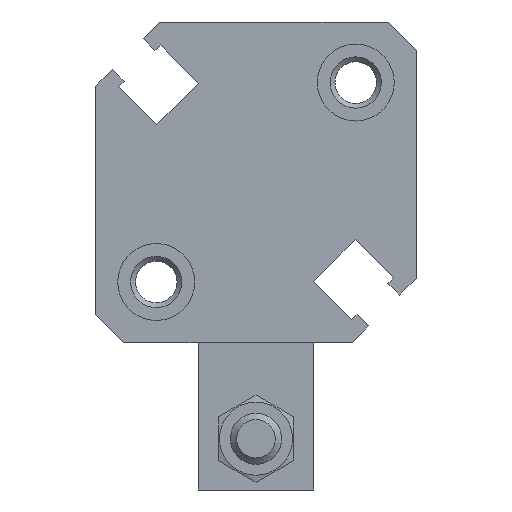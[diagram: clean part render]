
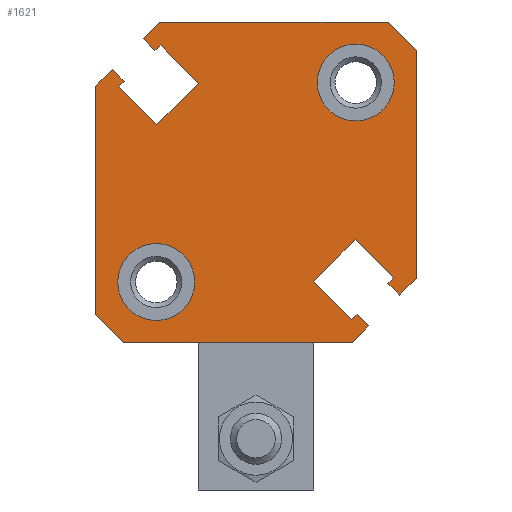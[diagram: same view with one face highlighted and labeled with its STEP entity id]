
A CAD part, front view. The second image highlights one B-rep face of the part: STEP entity #1621.
In plain terms, the highlighted planar face has unit normal (0, -1, 0).
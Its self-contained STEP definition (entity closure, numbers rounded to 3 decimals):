
#98=CIRCLE('',#1795,3.);
#99=CIRCLE('',#1796,3.);
#293=ORIENTED_EDGE('',*,*,#643,.F.);
#294=ORIENTED_EDGE('',*,*,#644,.F.);
#295=ORIENTED_EDGE('',*,*,#565,.F.);
#296=ORIENTED_EDGE('',*,*,#638,.F.);
#297=ORIENTED_EDGE('',*,*,#635,.F.);
#298=ORIENTED_EDGE('',*,*,#632,.F.);
#299=ORIENTED_EDGE('',*,*,#629,.F.);
#300=ORIENTED_EDGE('',*,*,#626,.F.);
#301=ORIENTED_EDGE('',*,*,#623,.F.);
#302=ORIENTED_EDGE('',*,*,#620,.F.);
#303=ORIENTED_EDGE('',*,*,#617,.F.);
#304=ORIENTED_EDGE('',*,*,#614,.F.);
#305=ORIENTED_EDGE('',*,*,#611,.F.);
#306=ORIENTED_EDGE('',*,*,#608,.F.);
#307=ORIENTED_EDGE('',*,*,#605,.F.);
#308=ORIENTED_EDGE('',*,*,#602,.F.);
#309=ORIENTED_EDGE('',*,*,#596,.F.);
#310=ORIENTED_EDGE('',*,*,#593,.F.);
#311=ORIENTED_EDGE('',*,*,#590,.F.);
#312=ORIENTED_EDGE('',*,*,#587,.F.);
#313=ORIENTED_EDGE('',*,*,#584,.F.);
#314=ORIENTED_EDGE('',*,*,#581,.F.);
#315=ORIENTED_EDGE('',*,*,#578,.F.);
#316=ORIENTED_EDGE('',*,*,#575,.F.);
#317=ORIENTED_EDGE('',*,*,#572,.F.);
#318=ORIENTED_EDGE('',*,*,#569,.F.);
#565=EDGE_CURVE('',#764,#765,#922,.T.);
#569=EDGE_CURVE('',#765,#768,#926,.T.);
#572=EDGE_CURVE('',#768,#770,#929,.T.);
#575=EDGE_CURVE('',#770,#772,#932,.T.);
#578=EDGE_CURVE('',#772,#774,#935,.T.);
#581=EDGE_CURVE('',#774,#776,#938,.T.);
#584=EDGE_CURVE('',#776,#778,#941,.T.);
#587=EDGE_CURVE('',#778,#780,#944,.T.);
#590=EDGE_CURVE('',#780,#782,#947,.T.);
#593=EDGE_CURVE('',#782,#784,#950,.T.);
#596=EDGE_CURVE('',#784,#786,#953,.T.);
#602=EDGE_CURVE('',#786,#791,#956,.T.);
#605=EDGE_CURVE('',#791,#793,#959,.T.);
#608=EDGE_CURVE('',#793,#795,#962,.T.);
#611=EDGE_CURVE('',#795,#797,#965,.T.);
#614=EDGE_CURVE('',#797,#799,#968,.T.);
#617=EDGE_CURVE('',#799,#801,#971,.T.);
#620=EDGE_CURVE('',#801,#803,#974,.T.);
#623=EDGE_CURVE('',#803,#805,#977,.T.);
#626=EDGE_CURVE('',#805,#807,#980,.T.);
#629=EDGE_CURVE('',#807,#809,#983,.T.);
#632=EDGE_CURVE('',#809,#811,#986,.T.);
#635=EDGE_CURVE('',#811,#813,#989,.T.);
#638=EDGE_CURVE('',#813,#764,#992,.T.);
#643=EDGE_CURVE('',#818,#818,#98,.T.);
#644=EDGE_CURVE('',#819,#819,#99,.T.);
#764=VERTEX_POINT('',#2468);
#765=VERTEX_POINT('',#2469);
#768=VERTEX_POINT('',#2477);
#770=VERTEX_POINT('',#2483);
#772=VERTEX_POINT('',#2489);
#774=VERTEX_POINT('',#2495);
#776=VERTEX_POINT('',#2501);
#778=VERTEX_POINT('',#2507);
#780=VERTEX_POINT('',#2513);
#782=VERTEX_POINT('',#2519);
#784=VERTEX_POINT('',#2525);
#786=VERTEX_POINT('',#2531);
#791=VERTEX_POINT('',#2543);
#793=VERTEX_POINT('',#2549);
#795=VERTEX_POINT('',#2555);
#797=VERTEX_POINT('',#2561);
#799=VERTEX_POINT('',#2567);
#801=VERTEX_POINT('',#2573);
#803=VERTEX_POINT('',#2579);
#805=VERTEX_POINT('',#2585);
#807=VERTEX_POINT('',#2591);
#809=VERTEX_POINT('',#2597);
#811=VERTEX_POINT('',#2603);
#813=VERTEX_POINT('',#2609);
#818=VERTEX_POINT('',#2625);
#819=VERTEX_POINT('',#2627);
#922=LINE('',#2467,#1021);
#926=LINE('',#2476,#1025);
#929=LINE('',#2482,#1028);
#932=LINE('',#2488,#1031);
#935=LINE('',#2494,#1034);
#938=LINE('',#2500,#1037);
#941=LINE('',#2506,#1040);
#944=LINE('',#2512,#1043);
#947=LINE('',#2518,#1046);
#950=LINE('',#2524,#1049);
#953=LINE('',#2530,#1052);
#956=LINE('',#2542,#1055);
#959=LINE('',#2548,#1058);
#962=LINE('',#2554,#1061);
#965=LINE('',#2560,#1064);
#968=LINE('',#2566,#1067);
#971=LINE('',#2572,#1070);
#974=LINE('',#2578,#1073);
#977=LINE('',#2584,#1076);
#980=LINE('',#2590,#1079);
#983=LINE('',#2596,#1082);
#986=LINE('',#2602,#1085);
#989=LINE('',#2608,#1088);
#992=LINE('',#2614,#1091);
#1021=VECTOR('',#1968,1000.);
#1025=VECTOR('',#1974,1000.);
#1028=VECTOR('',#1979,1000.);
#1031=VECTOR('',#1984,1000.);
#1034=VECTOR('',#1989,1000.);
#1037=VECTOR('',#1994,1000.);
#1040=VECTOR('',#1999,1000.);
#1043=VECTOR('',#2004,1000.);
#1046=VECTOR('',#2009,1000.);
#1049=VECTOR('',#2014,1000.);
#1052=VECTOR('',#2019,1000.);
#1055=VECTOR('',#2030,1000.);
#1058=VECTOR('',#2035,1000.);
#1061=VECTOR('',#2040,1000.);
#1064=VECTOR('',#2045,1000.);
#1067=VECTOR('',#2050,1000.);
#1070=VECTOR('',#2055,1000.);
#1073=VECTOR('',#2060,1000.);
#1076=VECTOR('',#2065,1000.);
#1079=VECTOR('',#2070,1000.);
#1082=VECTOR('',#2075,1000.);
#1085=VECTOR('',#2080,1000.);
#1088=VECTOR('',#2085,1000.);
#1091=VECTOR('',#2090,1000.);
#1151=EDGE_LOOP('',(#293));
#1152=EDGE_LOOP('',(#294));
#1153=EDGE_LOOP('',(#295,#296,#297,#298,#299,#300,#301,#302,#303,#304,#305,
#306,#307,#308,#309,#310,#311,#312,#313,#314,#315,#316,#317,#318));
#1352=FACE_BOUND('',#1151,.T.);
#1353=FACE_BOUND('',#1152,.T.);
#1354=FACE_BOUND('',#1153,.T.);
#1547=PLANE('',#1794);
#1621=ADVANCED_FACE('',(#1352,#1353,#1354),#1547,.F.);
#1794=AXIS2_PLACEMENT_3D('',#2623,#2100,#2101);
#1795=AXIS2_PLACEMENT_3D('',#2624,#2102,#2103);
#1796=AXIS2_PLACEMENT_3D('',#2626,#2104,#2105);
#1968=DIRECTION('',(-0.707,0.,0.707));
#1974=DIRECTION('',(0.,0.,1.));
#1979=DIRECTION('',(0.707,0.,0.707));
#1984=DIRECTION('',(0.707,0.,-0.707));
#1989=DIRECTION('',(-0.707,0.,-0.707));
#1994=DIRECTION('',(0.707,0.,-0.707));
#1999=DIRECTION('',(0.707,0.,0.707));
#2004=DIRECTION('',(-0.707,0.,0.707));
#2009=DIRECTION('',(-0.707,0.,-0.707));
#2014=DIRECTION('',(-0.707,0.,0.707));
#2019=DIRECTION('',(0.707,0.,0.707));
#2030=DIRECTION('',(1.,0.,0.));
#2035=DIRECTION('',(0.707,0.,-0.707));
#2040=DIRECTION('',(0.,0.,-1.));
#2045=DIRECTION('',(-0.707,0.,-0.707));
#2050=DIRECTION('',(-0.707,0.,0.707));
#2055=DIRECTION('',(0.707,0.,0.707));
#2060=DIRECTION('',(-0.707,0.,0.707));
#2065=DIRECTION('',(-0.707,0.,-0.707));
#2070=DIRECTION('',(0.707,0.,-0.707));
#2075=DIRECTION('',(0.707,0.,0.707));
#2080=DIRECTION('',(0.707,0.,-0.707));
#2085=DIRECTION('',(-0.707,0.,-0.707));
#2090=DIRECTION('',(-1.,0.,0.));
#2100=DIRECTION('',(0.,1.,0.));
#2101=DIRECTION('',(0.,0.,1.));
#2102=DIRECTION('',(0.,-1.,0.));
#2103=DIRECTION('',(0.,0.,-1.));
#2104=DIRECTION('',(0.,-1.,0.));
#2105=DIRECTION('',(0.,0.,-1.));
#2467=CARTESIAN_POINT('',(-10.3,0.,-12.5));
#2468=CARTESIAN_POINT('',(-10.3,0.,-12.5));
#2469=CARTESIAN_POINT('',(-12.5,0.,-10.3));
#2476=CARTESIAN_POINT('',(-12.5,0.,-10.3));
#2477=CARTESIAN_POINT('',(-12.5,0.,7.5));
#2482=CARTESIAN_POINT('',(-12.5,0.,7.5));
#2483=CARTESIAN_POINT('',(-11.202,0.,8.798));
#2488=CARTESIAN_POINT('',(-11.202,0.,8.798));
#2489=CARTESIAN_POINT('',(-10.283,0.,7.879));
#2494=CARTESIAN_POINT('',(-10.283,0.,7.879));
#2495=CARTESIAN_POINT('',(-10.707,0.,7.454));
#2500=CARTESIAN_POINT('',(-10.707,0.,7.454));
#2501=CARTESIAN_POINT('',(-7.737,0.,4.485));
#2506=CARTESIAN_POINT('',(-7.737,0.,4.485));
#2507=CARTESIAN_POINT('',(-4.485,0.,7.737));
#2512=CARTESIAN_POINT('',(-4.485,0.,7.737));
#2513=CARTESIAN_POINT('',(-7.454,0.,10.707));
#2518=CARTESIAN_POINT('',(-7.454,0.,10.707));
#2519=CARTESIAN_POINT('',(-7.879,0.,10.283));
#2524=CARTESIAN_POINT('',(-7.879,0.,10.283));
#2525=CARTESIAN_POINT('',(-8.798,0.,11.202));
#2530=CARTESIAN_POINT('',(-8.798,0.,11.202));
#2531=CARTESIAN_POINT('',(-7.5,0.,12.5));
#2542=CARTESIAN_POINT('',(-7.5,0.,12.5));
#2543=CARTESIAN_POINT('',(10.3,0.,12.5));
#2548=CARTESIAN_POINT('',(10.3,0.,12.5));
#2549=CARTESIAN_POINT('',(12.5,0.,10.3));
#2554=CARTESIAN_POINT('',(12.5,0.,10.3));
#2555=CARTESIAN_POINT('',(12.5,0.,-7.5));
#2560=CARTESIAN_POINT('',(12.5,0.,-7.5));
#2561=CARTESIAN_POINT('',(11.202,0.,-8.798));
#2566=CARTESIAN_POINT('',(11.202,0.,-8.798));
#2567=CARTESIAN_POINT('',(10.283,0.,-7.879));
#2572=CARTESIAN_POINT('',(10.283,0.,-7.879));
#2573=CARTESIAN_POINT('',(10.707,0.,-7.454));
#2578=CARTESIAN_POINT('',(10.707,0.,-7.454));
#2579=CARTESIAN_POINT('',(7.737,0.,-4.485));
#2584=CARTESIAN_POINT('',(7.737,0.,-4.485));
#2585=CARTESIAN_POINT('',(4.485,0.,-7.737));
#2590=CARTESIAN_POINT('',(4.485,0.,-7.737));
#2591=CARTESIAN_POINT('',(7.454,0.,-10.707));
#2596=CARTESIAN_POINT('',(7.454,0.,-10.707));
#2597=CARTESIAN_POINT('',(7.879,0.,-10.283));
#2602=CARTESIAN_POINT('',(7.879,0.,-10.283));
#2603=CARTESIAN_POINT('',(8.798,0.,-11.202));
#2608=CARTESIAN_POINT('',(8.798,0.,-11.202));
#2609=CARTESIAN_POINT('',(7.5,0.,-12.5));
#2614=CARTESIAN_POINT('',(7.5,0.,-12.5));
#2623=CARTESIAN_POINT('',(0.,0.,0.));
#2624=CARTESIAN_POINT('',(-7.778,0.,-7.778));
#2625=CARTESIAN_POINT('',(-7.778,0.,-10.778));
#2626=CARTESIAN_POINT('',(7.778,0.,7.778));
#2627=CARTESIAN_POINT('',(7.778,0.,4.778));
